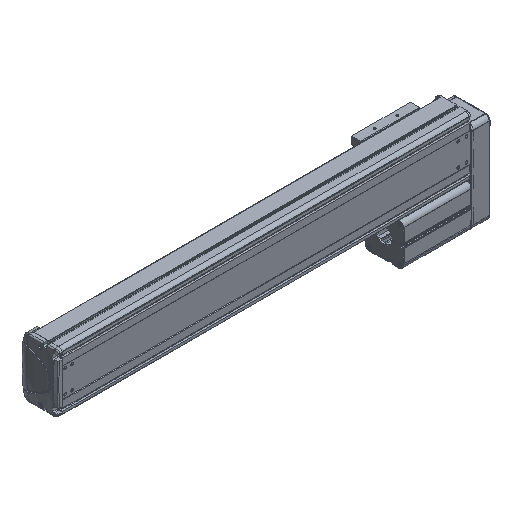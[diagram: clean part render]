
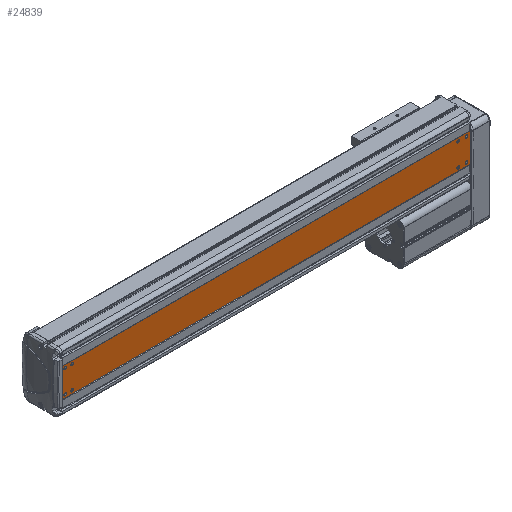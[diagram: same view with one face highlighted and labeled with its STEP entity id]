
A CAD part, isometric view. The second image highlights one B-rep face of the part: STEP entity #24839.
In plain terms, the highlighted planar face has unit normal (0, -1, 0).
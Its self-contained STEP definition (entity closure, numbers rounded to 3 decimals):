
#4308=CARTESIAN_POINT('',(-894.,1.5,-25.));
#4309=DIRECTION('',(0.,1.,0.));
#4310=DIRECTION('',(1.,0.,0.));
#4311=AXIS2_PLACEMENT_3D('',#4308,#4309,#4310);
#4313=CARTESIAN_POINT('',(-894.,1.5,-25.));
#4314=DIRECTION('',(0.,1.,0.));
#4315=DIRECTION('',(-1.,0.,0.));
#4316=AXIS2_PLACEMENT_3D('',#4313,#4314,#4315);
#4318=CARTESIAN_POINT('',(-894.,1.5,25.));
#4319=DIRECTION('',(0.,1.,0.));
#4320=DIRECTION('',(1.,0.,0.));
#4321=AXIS2_PLACEMENT_3D('',#4318,#4319,#4320);
#4323=CARTESIAN_POINT('',(-894.,1.5,25.));
#4324=DIRECTION('',(0.,1.,0.));
#4325=DIRECTION('',(-1.,0.,0.));
#4326=AXIS2_PLACEMENT_3D('',#4323,#4324,#4325);
#4328=CARTESIAN_POINT('',(-879.,1.5,-25.));
#4329=DIRECTION('',(0.,1.,0.));
#4330=DIRECTION('',(1.,0.,0.));
#4331=AXIS2_PLACEMENT_3D('',#4328,#4329,#4330);
#4333=CARTESIAN_POINT('',(-879.,1.5,-25.));
#4334=DIRECTION('',(0.,1.,0.));
#4335=DIRECTION('',(-1.,0.,0.));
#4336=AXIS2_PLACEMENT_3D('',#4333,#4334,#4335);
#4338=CARTESIAN_POINT('',(-879.,1.5,25.));
#4339=DIRECTION('',(0.,1.,0.));
#4340=DIRECTION('',(1.,0.,0.));
#4341=AXIS2_PLACEMENT_3D('',#4338,#4339,#4340);
#4343=CARTESIAN_POINT('',(-879.,1.5,25.));
#4344=DIRECTION('',(0.,1.,0.));
#4345=DIRECTION('',(-1.,0.,0.));
#4346=AXIS2_PLACEMENT_3D('',#4343,#4344,#4345);
#4348=CARTESIAN_POINT('',(-7.,1.5,-25.));
#4349=DIRECTION('',(0.,1.,0.));
#4350=DIRECTION('',(1.,0.,0.));
#4351=AXIS2_PLACEMENT_3D('',#4348,#4349,#4350);
#4353=CARTESIAN_POINT('',(-7.,1.5,-25.));
#4354=DIRECTION('',(0.,1.,0.));
#4355=DIRECTION('',(-1.,0.,0.));
#4356=AXIS2_PLACEMENT_3D('',#4353,#4354,#4355);
#4358=CARTESIAN_POINT('',(-7.,1.5,25.));
#4359=DIRECTION('',(0.,1.,0.));
#4360=DIRECTION('',(1.,0.,0.));
#4361=AXIS2_PLACEMENT_3D('',#4358,#4359,#4360);
#4363=CARTESIAN_POINT('',(-7.,1.5,25.));
#4364=DIRECTION('',(0.,1.,0.));
#4365=DIRECTION('',(-1.,0.,0.));
#4366=AXIS2_PLACEMENT_3D('',#4363,#4364,#4365);
#4368=CARTESIAN_POINT('',(-25.,1.5,-25.));
#4369=DIRECTION('',(0.,1.,0.));
#4370=DIRECTION('',(1.,0.,0.));
#4371=AXIS2_PLACEMENT_3D('',#4368,#4369,#4370);
#4373=CARTESIAN_POINT('',(-25.,1.5,-25.));
#4374=DIRECTION('',(0.,1.,0.));
#4375=DIRECTION('',(-1.,0.,0.));
#4376=AXIS2_PLACEMENT_3D('',#4373,#4374,#4375);
#4378=CARTESIAN_POINT('',(-25.,1.5,25.));
#4379=DIRECTION('',(0.,1.,0.));
#4380=DIRECTION('',(1.,0.,0.));
#4381=AXIS2_PLACEMENT_3D('',#4378,#4379,#4380);
#4383=CARTESIAN_POINT('',(-25.,1.5,25.));
#4384=DIRECTION('',(0.,1.,0.));
#4385=DIRECTION('',(-1.,0.,0.));
#4386=AXIS2_PLACEMENT_3D('',#4383,#4384,#4385);
#4388=DIRECTION('',(-1.,0.,0.));
#4389=VECTOR('',#4388,900.);
#4390=CARTESIAN_POINT('',(0.,1.5,32.));
#4391=LINE('',#4390,#4389);
#4392=DIRECTION('',(0.,0.,1.));
#4393=VECTOR('',#4392,88.);
#4394=CARTESIAN_POINT('',(3.,1.5,-44.));
#4395=LINE('',#4394,#4393);
#4396=DIRECTION('',(0.,0.,-1.));
#4397=VECTOR('',#4396,64.);
#4398=CARTESIAN_POINT('',(-900.,1.5,32.));
#4399=LINE('',#4398,#4397);
#4691=DIRECTION('',(0.,0.,1.));
#4692=VECTOR('',#4691,12.);
#4693=CARTESIAN_POINT('',(0.,1.5,32.));
#4694=LINE('',#4693,#4692);
#4743=DIRECTION('',(0.,0.,1.));
#4744=VECTOR('',#4743,12.);
#4745=CARTESIAN_POINT('',(0.,1.5,-44.));
#4746=LINE('',#4745,#4744);
#9120=DIRECTION('',(1.,0.,0.));
#9121=VECTOR('',#9120,3.);
#9122=CARTESIAN_POINT('',(0.,1.5,-44.));
#9123=LINE('',#9122,#9121);
#9444=DIRECTION('',(-1.,0.,0.));
#9445=VECTOR('',#9444,900.);
#9446=CARTESIAN_POINT('',(0.,1.5,-32.));
#9447=LINE('',#9446,#9445);
#11400=DIRECTION('',(-1.,0.,0.));
#11401=VECTOR('',#11400,3.);
#11402=CARTESIAN_POINT('',(3.,1.5,44.));
#11403=LINE('',#11402,#11401);
#15594=CARTESIAN_POINT('',(3.,1.5,44.));
#15595=VERTEX_POINT('',#15594);
#15596=CARTESIAN_POINT('',(3.,1.5,-44.));
#15597=VERTEX_POINT('',#15596);
#16815=CARTESIAN_POINT('',(-900.,1.5,-32.));
#16816=VERTEX_POINT('',#16815);
#16817=CARTESIAN_POINT('',(-900.,1.5,32.));
#16818=VERTEX_POINT('',#16817);
#17099=CARTESIAN_POINT('',(-891.5,1.5,-25.));
#17100=CARTESIAN_POINT('',(-896.5,1.5,-25.));
#17101=VERTEX_POINT('',#17099);
#17102=VERTEX_POINT('',#17100);
#17103=CARTESIAN_POINT('',(-891.5,1.5,25.));
#17104=CARTESIAN_POINT('',(-896.5,1.5,25.));
#17105=VERTEX_POINT('',#17103);
#17106=VERTEX_POINT('',#17104);
#17107=CARTESIAN_POINT('',(-876.5,1.5,-25.));
#17108=CARTESIAN_POINT('',(-881.5,1.5,-25.));
#17109=VERTEX_POINT('',#17107);
#17110=VERTEX_POINT('',#17108);
#17111=CARTESIAN_POINT('',(-876.5,1.5,25.));
#17112=CARTESIAN_POINT('',(-881.5,1.5,25.));
#17113=VERTEX_POINT('',#17111);
#17114=VERTEX_POINT('',#17112);
#17115=CARTESIAN_POINT('',(-4.5,1.5,-25.));
#17116=CARTESIAN_POINT('',(-9.5,1.5,-25.));
#17117=VERTEX_POINT('',#17115);
#17118=VERTEX_POINT('',#17116);
#17119=CARTESIAN_POINT('',(-4.5,1.5,25.));
#17120=CARTESIAN_POINT('',(-9.5,1.5,25.));
#17121=VERTEX_POINT('',#17119);
#17122=VERTEX_POINT('',#17120);
#17123=CARTESIAN_POINT('',(-22.5,1.5,-25.));
#17124=CARTESIAN_POINT('',(-27.5,1.5,-25.));
#17125=VERTEX_POINT('',#17123);
#17126=VERTEX_POINT('',#17124);
#17127=CARTESIAN_POINT('',(-22.5,1.5,25.));
#17128=CARTESIAN_POINT('',(-27.5,1.5,25.));
#17129=VERTEX_POINT('',#17127);
#17130=VERTEX_POINT('',#17128);
#18064=CARTESIAN_POINT('',(0.,1.5,-44.));
#18065=VERTEX_POINT('',#18064);
#18066=CARTESIAN_POINT('',(0.,1.5,-32.));
#18067=VERTEX_POINT('',#18066);
#18068=CARTESIAN_POINT('',(0.,1.5,32.));
#18069=CARTESIAN_POINT('',(0.,1.5,44.));
#18070=VERTEX_POINT('',#18068);
#18071=VERTEX_POINT('',#18069);
#24770=CARTESIAN_POINT('',(-450.,1.5,0.));
#24771=DIRECTION('',(0.,1.,0.));
#24772=DIRECTION('',(0.,0.,-1.));
#24773=AXIS2_PLACEMENT_3D('',#24770,#24771,#24772);
#24774=PLANE('',#24773);
#24776=ORIENTED_EDGE('',*,*,#24775,.F.);
#24778=ORIENTED_EDGE('',*,*,#24777,.T.);
#24780=ORIENTED_EDGE('',*,*,#24779,.F.);
#24782=ORIENTED_EDGE('',*,*,#24781,.F.);
#24784=ORIENTED_EDGE('',*,*,#24783,.F.);
#24786=ORIENTED_EDGE('',*,*,#24785,.T.);
#24788=ORIENTED_EDGE('',*,*,#24787,.T.);
#24789=ORIENTED_EDGE('',*,*,#23734,.F.);
#24790=EDGE_LOOP('',(#24776,#24778,#24780,#24782,#24784,#24786,#24788,#24789));
#24791=FACE_OUTER_BOUND('',#24790,.F.);
#24793=ORIENTED_EDGE('',*,*,#24792,.F.);
#24795=ORIENTED_EDGE('',*,*,#24794,.F.);
#24796=EDGE_LOOP('',(#24793,#24795));
#24797=FACE_BOUND('',#24796,.F.);
#24799=ORIENTED_EDGE('',*,*,#24798,.F.);
#24801=ORIENTED_EDGE('',*,*,#24800,.F.);
#24802=EDGE_LOOP('',(#24799,#24801));
#24803=FACE_BOUND('',#24802,.F.);
#24805=ORIENTED_EDGE('',*,*,#24804,.F.);
#24807=ORIENTED_EDGE('',*,*,#24806,.F.);
#24808=EDGE_LOOP('',(#24805,#24807));
#24809=FACE_BOUND('',#24808,.F.);
#24810=ORIENTED_EDGE('',*,*,#24760,.F.);
#24812=ORIENTED_EDGE('',*,*,#24811,.F.);
#24813=EDGE_LOOP('',(#24810,#24812));
#24814=FACE_BOUND('',#24813,.F.);
#24816=ORIENTED_EDGE('',*,*,#24815,.F.);
#24818=ORIENTED_EDGE('',*,*,#24817,.F.);
#24819=EDGE_LOOP('',(#24816,#24818));
#24820=FACE_BOUND('',#24819,.F.);
#24822=ORIENTED_EDGE('',*,*,#24821,.F.);
#24824=ORIENTED_EDGE('',*,*,#24823,.F.);
#24825=EDGE_LOOP('',(#24822,#24824));
#24826=FACE_BOUND('',#24825,.F.);
#24828=ORIENTED_EDGE('',*,*,#24827,.F.);
#24830=ORIENTED_EDGE('',*,*,#24829,.F.);
#24831=EDGE_LOOP('',(#24828,#24830));
#24832=FACE_BOUND('',#24831,.F.);
#24834=ORIENTED_EDGE('',*,*,#24833,.F.);
#24836=ORIENTED_EDGE('',*,*,#24835,.F.);
#24837=EDGE_LOOP('',(#24834,#24836));
#24838=FACE_BOUND('',#24837,.F.);
#24839=ADVANCED_FACE('',(#24791,#24797,#24803,#24809,#24814,#24820,#24826,
#24832,#24838),#24774,.F.);
#4312=CIRCLE('',#4311,2.5);
#4317=CIRCLE('',#4316,2.5);
#4322=CIRCLE('',#4321,2.5);
#4327=CIRCLE('',#4326,2.5);
#4332=CIRCLE('',#4331,2.5);
#4337=CIRCLE('',#4336,2.5);
#4342=CIRCLE('',#4341,2.5);
#4347=CIRCLE('',#4346,2.5);
#4352=CIRCLE('',#4351,2.5);
#4357=CIRCLE('',#4356,2.5);
#4362=CIRCLE('',#4361,2.5);
#4367=CIRCLE('',#4366,2.5);
#4372=CIRCLE('',#4371,2.5);
#4377=CIRCLE('',#4376,2.5);
#4382=CIRCLE('',#4381,2.5);
#4387=CIRCLE('',#4386,2.5);
#23734=EDGE_CURVE('',#16818,#16816,#4399,.T.);
#24760=EDGE_CURVE('',#17117,#17118,#4352,.T.);
#24775=EDGE_CURVE('',#18070,#16818,#4391,.T.);
#24777=EDGE_CURVE('',#18070,#18071,#4694,.T.);
#24779=EDGE_CURVE('',#15595,#18071,#11403,.T.);
#24781=EDGE_CURVE('',#15597,#15595,#4395,.T.);
#24783=EDGE_CURVE('',#18065,#15597,#9123,.T.);
#24785=EDGE_CURVE('',#18065,#18067,#4746,.T.);
#24787=EDGE_CURVE('',#18067,#16816,#9447,.T.);
#24792=EDGE_CURVE('',#17105,#17106,#4322,.T.);
#24794=EDGE_CURVE('',#17106,#17105,#4327,.T.);
#24798=EDGE_CURVE('',#17109,#17110,#4332,.T.);
#24800=EDGE_CURVE('',#17110,#17109,#4337,.T.);
#24804=EDGE_CURVE('',#17113,#17114,#4342,.T.);
#24806=EDGE_CURVE('',#17114,#17113,#4347,.T.);
#24811=EDGE_CURVE('',#17118,#17117,#4357,.T.);
#24815=EDGE_CURVE('',#17121,#17122,#4362,.T.);
#24817=EDGE_CURVE('',#17122,#17121,#4367,.T.);
#24821=EDGE_CURVE('',#17125,#17126,#4372,.T.);
#24823=EDGE_CURVE('',#17126,#17125,#4377,.T.);
#24827=EDGE_CURVE('',#17129,#17130,#4382,.T.);
#24829=EDGE_CURVE('',#17130,#17129,#4387,.T.);
#24833=EDGE_CURVE('',#17101,#17102,#4312,.T.);
#24835=EDGE_CURVE('',#17102,#17101,#4317,.T.);
